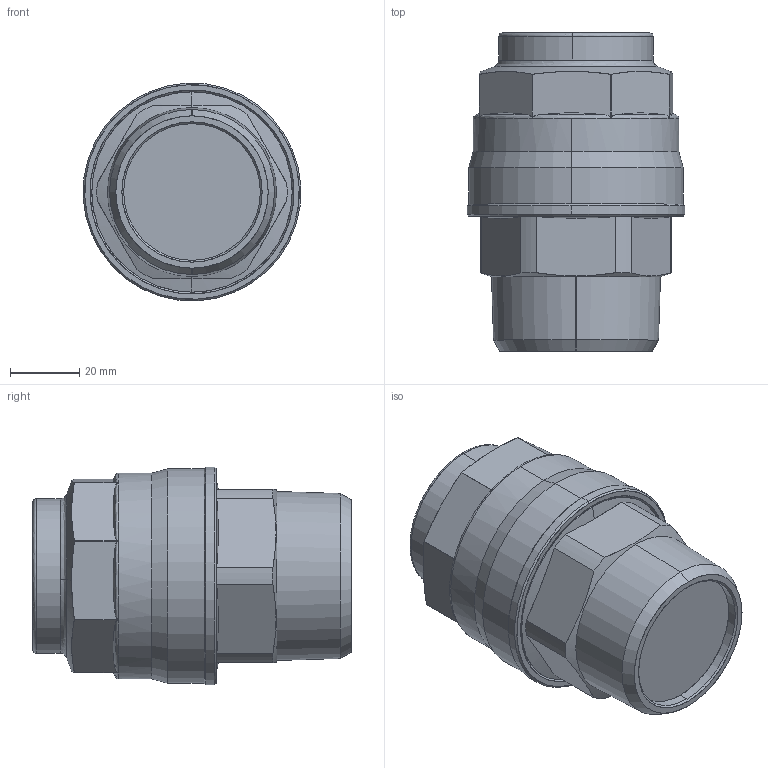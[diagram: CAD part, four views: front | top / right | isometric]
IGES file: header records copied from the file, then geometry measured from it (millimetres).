
Start section: SolidWorks IGES file using analytic representation for surfaces
Global section: file name: K:\Disegni Esecutivi\Serie 90.000\ASSIEMI_90000\90010\ASSIEMI_PIENI_90010\9001000007.IGS; native system: SolidWorks 2009; preprocessor: SolidWorks 2009; author: cad02; date: 090902.162813; units: millimetre
Bounding box: 62.94 x 92 x 62.94 mm (x, y, z)
Surface area: 22599.1 mm2 (no closed solid volume)
Topology: 0 solids, 0 shells, 83 faces, 1318 edges, 1318 vertices
Faces by surface type: revolution 51, bspline 32
